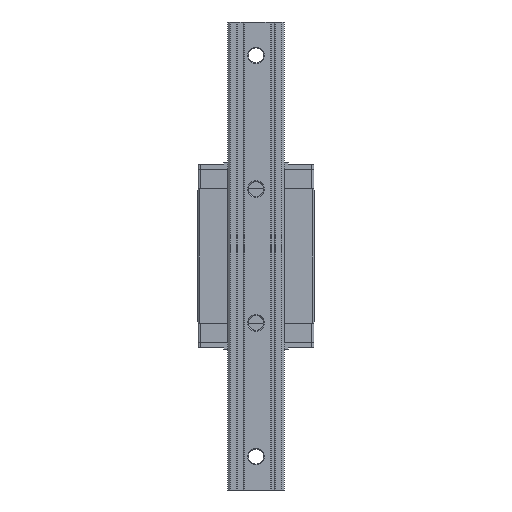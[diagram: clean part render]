
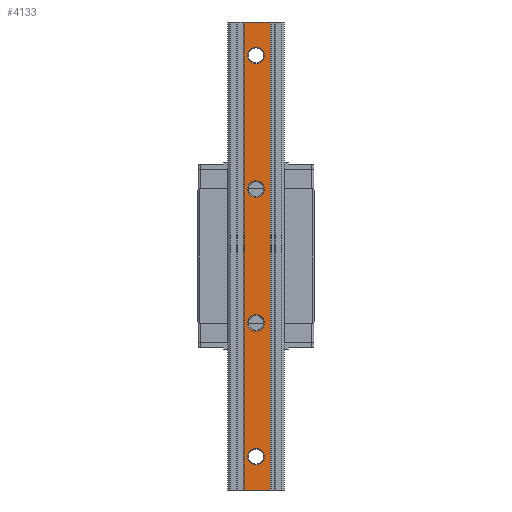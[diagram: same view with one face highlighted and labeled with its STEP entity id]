
A CAD part, front view. The second image highlights one B-rep face of the part: STEP entity #4133.
In plain terms, the highlighted planar face has unit normal (0, -1, 0).
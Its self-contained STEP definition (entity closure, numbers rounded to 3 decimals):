
#183 = VERTEX_POINT ( 'NONE', #15765 ) ;
#326 = DIRECTION ( 'NONE',  ( 0., 0., 1. ) ) ;
#521 = CARTESIAN_POINT ( 'NONE',  ( 0., -26., -40. ) ) ;
#1009 = CARTESIAN_POINT ( 'NONE',  ( 0., -26., 40. ) ) ;
#1245 = DIRECTION ( 'NONE',  ( 0., 1., 0. ) ) ;
#1265 = ORIENTED_EDGE ( 'NONE', *, *, #12655, .T. ) ;
#1346 = ORIENTED_EDGE ( 'NONE', *, *, #8123, .T. ) ;
#1386 = AXIS2_PLACEMENT_3D ( 'NONE', #1009, #2724, #15125 ) ;
#1691 = CIRCLE ( 'NONE', #12949, 5. ) ;
#1852 = CARTESIAN_POINT ( 'NONE',  ( 0., -26., 120. ) ) ;
#2540 = FACE_BOUND ( 'NONE', #3379, .T. ) ;
#2724 = DIRECTION ( 'NONE',  ( 0., 1., 0. ) ) ;
#2976 = CIRCLE ( 'NONE', #11648, 5. ) ;
#3296 = VERTEX_POINT ( 'NONE', #13565 ) ;
#3379 = EDGE_LOOP ( 'NONE', ( #8110, #18256 ) ) ;
#3683 = CARTESIAN_POINT ( 'NONE',  ( -7., -26., -140. ) ) ;
#3794 = VERTEX_POINT ( 'NONE', #4295 ) ;
#3796 = ORIENTED_EDGE ( 'NONE', *, *, #8474, .T. ) ;
#3976 = CARTESIAN_POINT ( 'NONE',  ( -7., -26., 140. ) ) ;
#3981 = VERTEX_POINT ( 'NONE', #18992 ) ;
#3982 = DIRECTION ( 'NONE',  ( 1., 0., 0. ) ) ;
#4133 = ADVANCED_FACE ( 'NONE', ( #2540, #13318, #8691, #12015, #18083 ), #4373, .F. ) ;
#4270 = DIRECTION ( 'NONE',  ( 0., 0., 1. ) ) ;
#4295 = CARTESIAN_POINT ( 'NONE',  ( 0., -26., 35. ) ) ;
#4300 = DIRECTION ( 'NONE',  ( 1., 0., 0. ) ) ;
#4317 = VECTOR ( 'NONE', #3982, 1000. ) ;
#4373 = PLANE ( 'NONE',  #14163 ) ;
#4386 = LINE ( 'NONE', #3976, #17471 ) ;
#4917 = AXIS2_PLACEMENT_3D ( 'NONE', #1852, #12720, #326 ) ;
#5270 = CARTESIAN_POINT ( 'NONE',  ( 0., -26., 125. ) ) ;
#5272 = EDGE_CURVE ( 'NONE', #8013, #12800, #15056, .T. ) ;
#5693 = VERTEX_POINT ( 'NONE', #5862 ) ;
#5705 = DIRECTION ( 'NONE',  ( 0., 0., 1. ) ) ;
#5804 = EDGE_CURVE ( 'NONE', #13008, #3794, #15859, .T. ) ;
#5821 = DIRECTION ( 'NONE',  ( 0., 1., 0. ) ) ;
#5862 = CARTESIAN_POINT ( 'NONE',  ( 0., -26., -35. ) ) ;
#5898 = DIRECTION ( 'NONE',  ( 0., 0., 1. ) ) ;
#6259 = DIRECTION ( 'NONE',  ( 0., 1., 0. ) ) ;
#6525 = EDGE_CURVE ( 'NONE', #3296, #7207, #11152, .T. ) ;
#6804 = ORIENTED_EDGE ( 'NONE', *, *, #5804, .T. ) ;
#6868 = EDGE_CURVE ( 'NONE', #183, #8013, #16500, .T. ) ;
#6877 = DIRECTION ( 'NONE',  ( 0., 1., 0. ) ) ;
#7095 = ORIENTED_EDGE ( 'NONE', *, *, #6525, .T. ) ;
#7207 = VERTEX_POINT ( 'NONE', #8500 ) ;
#7257 = CIRCLE ( 'NONE', #10155, 5. ) ;
#7782 = CARTESIAN_POINT ( 'NONE',  ( 0., -26., 45. ) ) ;
#7839 = ORIENTED_EDGE ( 'NONE', *, *, #14313, .T. ) ;
#7940 = ORIENTED_EDGE ( 'NONE', *, *, #6868, .F. ) ;
#7943 = CARTESIAN_POINT ( 'NONE',  ( -7., -26., -140. ) ) ;
#8013 = VERTEX_POINT ( 'NONE', #14862 ) ;
#8041 = EDGE_CURVE ( 'NONE', #11662, #12688, #15212, .T. ) ;
#8110 = ORIENTED_EDGE ( 'NONE', *, *, #14516, .T. ) ;
#8123 = EDGE_CURVE ( 'NONE', #7207, #3296, #2976, .T. ) ;
#8474 = EDGE_CURVE ( 'NONE', #183, #13815, #4386, .T. ) ;
#8500 = CARTESIAN_POINT ( 'NONE',  ( 0., -26., -125. ) ) ;
#8521 = CARTESIAN_POINT ( 'NONE',  ( -7., -26., 140. ) ) ;
#8673 = VECTOR ( 'NONE', #11832, 1000. ) ;
#8691 = FACE_BOUND ( 'NONE', #14661, .T. ) ;
#8725 = CARTESIAN_POINT ( 'NONE',  ( 0., -26., 120. ) ) ;
#8801 = CARTESIAN_POINT ( 'NONE',  ( 8.5, -26., -140. ) ) ;
#9332 = DIRECTION ( 'NONE',  ( 0., 0., 1. ) ) ;
#10155 = AXIS2_PLACEMENT_3D ( 'NONE', #521, #6877, #19183 ) ;
#10238 = CARTESIAN_POINT ( 'NONE',  ( 0., -26., -120. ) ) ;
#10282 = EDGE_LOOP ( 'NONE', ( #1346, #7095 ) ) ;
#10433 = CARTESIAN_POINT ( 'NONE',  ( 8.5, -26., 140. ) ) ;
#11152 = CIRCLE ( 'NONE', #13713, 5. ) ;
#11332 = LINE ( 'NONE', #3683, #4317 ) ;
#11644 = CIRCLE ( 'NONE', #4917, 5. ) ;
#11648 = AXIS2_PLACEMENT_3D ( 'NONE', #18405, #15578, #9332 ) ;
#11662 = VERTEX_POINT ( 'NONE', #5270 ) ;
#11703 = EDGE_LOOP ( 'NONE', ( #1265, #12695 ) ) ;
#11732 = DIRECTION ( 'NONE',  ( 0., 1., 0. ) ) ;
#11733 = ORIENTED_EDGE ( 'NONE', *, *, #13434, .T. ) ;
#11832 = DIRECTION ( 'NONE',  ( 0., 0., -1. ) ) ;
#11917 = CARTESIAN_POINT ( 'NONE',  ( -7., -26., 140. ) ) ;
#12015 = FACE_BOUND ( 'NONE', #11703, .T. ) ;
#12043 = CIRCLE ( 'NONE', #13955, 5. ) ;
#12157 = EDGE_LOOP ( 'NONE', ( #7839, #17853, #7940, #3796 ) ) ;
#12655 = EDGE_CURVE ( 'NONE', #12688, #11662, #11644, .T. ) ;
#12688 = VERTEX_POINT ( 'NONE', #13320 ) ;
#12695 = ORIENTED_EDGE ( 'NONE', *, *, #8041, .T. ) ;
#12720 = DIRECTION ( 'NONE',  ( 0., 1., 0. ) ) ;
#12800 = VERTEX_POINT ( 'NONE', #8801 ) ;
#12949 = AXIS2_PLACEMENT_3D ( 'NONE', #16945, #6259, #14177 ) ;
#13008 = VERTEX_POINT ( 'NONE', #7782 ) ;
#13047 = VECTOR ( 'NONE', #4300, 1000. ) ;
#13318 = FACE_BOUND ( 'NONE', #10282, .T. ) ;
#13320 = CARTESIAN_POINT ( 'NONE',  ( 0., -26., 115. ) ) ;
#13434 = EDGE_CURVE ( 'NONE', #3794, #13008, #1691, .T. ) ;
#13565 = CARTESIAN_POINT ( 'NONE',  ( 0., -26., -115. ) ) ;
#13583 = AXIS2_PLACEMENT_3D ( 'NONE', #8725, #5821, #18119 ) ;
#13713 = AXIS2_PLACEMENT_3D ( 'NONE', #10238, #14948, #5898 ) ;
#13815 = VERTEX_POINT ( 'NONE', #7943 ) ;
#13955 = AXIS2_PLACEMENT_3D ( 'NONE', #14847, #11732, #5705 ) ;
#14163 = AXIS2_PLACEMENT_3D ( 'NONE', #11917, #1245, #4270 ) ;
#14177 = DIRECTION ( 'NONE',  ( 0., 0., 1. ) ) ;
#14313 = EDGE_CURVE ( 'NONE', #13815, #12800, #11332, .T. ) ;
#14516 = EDGE_CURVE ( 'NONE', #3981, #5693, #12043, .T. ) ;
#14661 = EDGE_LOOP ( 'NONE', ( #11733, #6804 ) ) ;
#14847 = CARTESIAN_POINT ( 'NONE',  ( 0., -26., -40. ) ) ;
#14862 = CARTESIAN_POINT ( 'NONE',  ( 8.5, -26., 140. ) ) ;
#14948 = DIRECTION ( 'NONE',  ( 0., 1., 0. ) ) ;
#15056 = LINE ( 'NONE', #10433, #8673 ) ;
#15125 = DIRECTION ( 'NONE',  ( 0., 0., 1. ) ) ;
#15212 = CIRCLE ( 'NONE', #13583, 5. ) ;
#15578 = DIRECTION ( 'NONE',  ( 0., 1., 0. ) ) ;
#15765 = CARTESIAN_POINT ( 'NONE',  ( -7., -26., 140. ) ) ;
#15859 = CIRCLE ( 'NONE', #1386, 5. ) ;
#16485 = DIRECTION ( 'NONE',  ( 0., 0., -1. ) ) ;
#16500 = LINE ( 'NONE', #8521, #13047 ) ;
#16945 = CARTESIAN_POINT ( 'NONE',  ( 0., -26., 40. ) ) ;
#17471 = VECTOR ( 'NONE', #16485, 1000. ) ;
#17829 = EDGE_CURVE ( 'NONE', #5693, #3981, #7257, .T. ) ;
#17853 = ORIENTED_EDGE ( 'NONE', *, *, #5272, .F. ) ;
#18083 = FACE_OUTER_BOUND ( 'NONE', #12157, .T. ) ;
#18119 = DIRECTION ( 'NONE',  ( 0., 0., 1. ) ) ;
#18256 = ORIENTED_EDGE ( 'NONE', *, *, #17829, .T. ) ;
#18405 = CARTESIAN_POINT ( 'NONE',  ( 0., -26., -120. ) ) ;
#18992 = CARTESIAN_POINT ( 'NONE',  ( 0., -26., -45. ) ) ;
#19183 = DIRECTION ( 'NONE',  ( 0., 0., 1. ) ) ;
